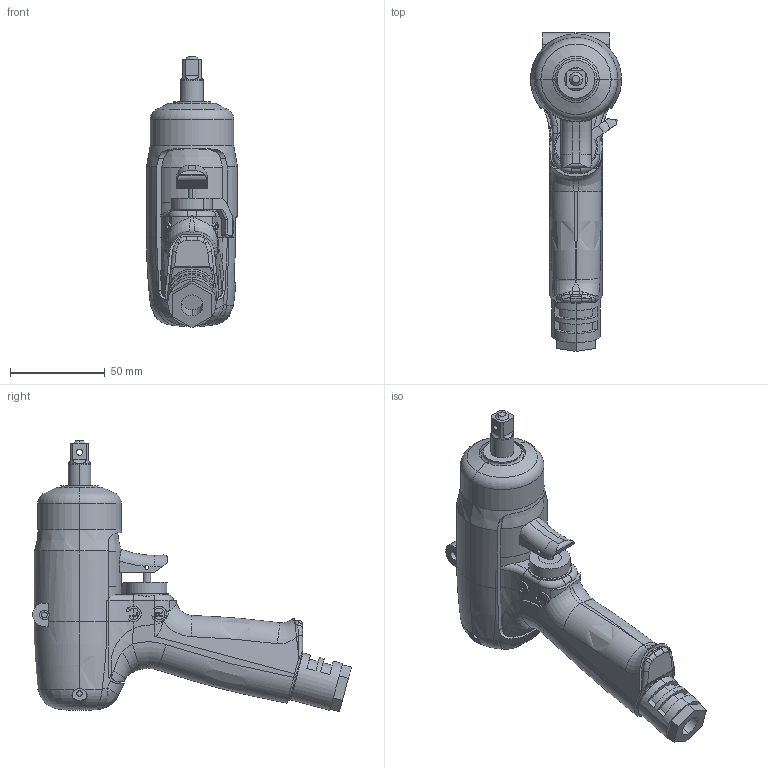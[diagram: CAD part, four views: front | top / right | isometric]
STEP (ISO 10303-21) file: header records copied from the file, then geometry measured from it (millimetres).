
FILE_DESCRIPTION (( 'STEP AP203' ), '1' );
FILE_NAME ('UL60.STEP', '2006-01-30T05:51:03', ( '山田　善嗣' ), ( 'TECH' ), 'SwSTEP 2.0', 'SolidWorks 2004073', '' );
FILE_SCHEMA (( 'CONFIG_CONTROL_DESIGN' ));
Length unit declared in the file: millimetre
Products named in the file (8): 1478422_UL60_蹬怮椔; 1434396_UL60_蹬怮椔; UL60; 1471072_UL60_蹬怮椔; 4802128_UL60_蹬怮椔; 1438403_UL60_蹬怮椔; 1433196_UL60_蹬怮椔; 1430256_UL60_蹬怮椔
Assembly tree (7 placements, depth 2):
  UL60
    1471072_UL60_蹬怮椔
    1434396_UL60_蹬怮椔
    1430256_UL60_蹬怮椔
    4802128_UL60_蹬怮椔
    1438403_UL60_蹬怮椔
    1433196_UL60_蹬怮椔
    1478422_UL60_蹬怮椔
Bounding box: 48 x 168.02 x 143.05 mm (x, y, z)
Volume: 292779 mm3; surface area: 85651.5 mm2
Topology: 7 solids, 7 shells, 886 faces, 2393 edges, 1528 vertices
Faces by surface type: plane 427, cylinder 233, bspline 152, torus 54, cone 14, sphere 6
Entity records: 81639 total; most frequent: CARTESIAN_POINT 60983, ORIENTED_EDGE 4778, DIRECTION 3331, EDGE_CURVE 2389, VERTEX_POINT 1528, AXIS2_PLACEMENT_3D 1250, EDGE_LOOP 919, FACE_OUTER_BOUND 886
